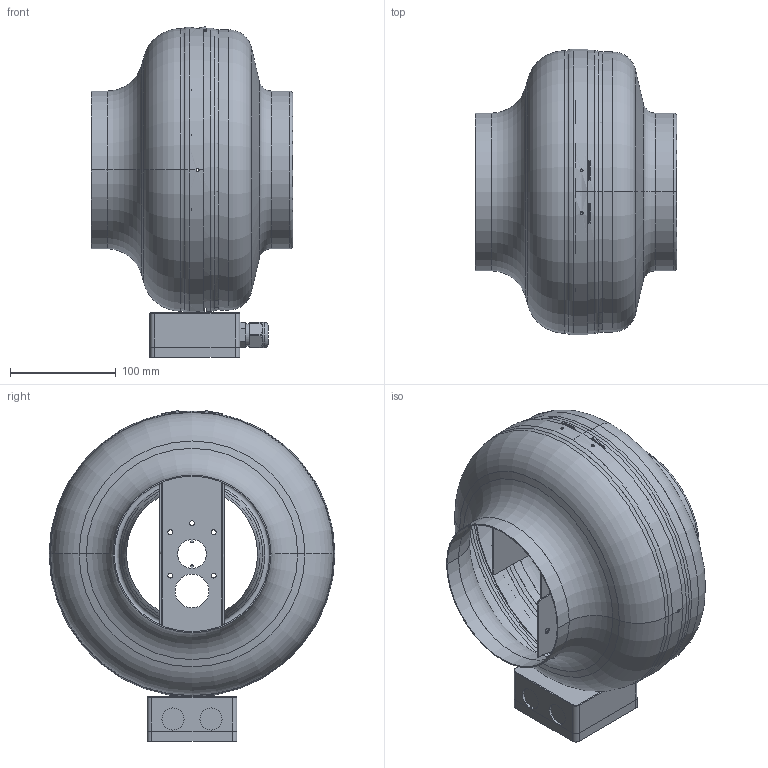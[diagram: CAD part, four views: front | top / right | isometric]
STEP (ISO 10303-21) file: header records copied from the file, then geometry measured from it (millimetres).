
FILE_DESCRIPTION (( 'STEP AP203' ), '1' );
FILE_NAME ('154610_00_RS150ECK01_step.step', '2022-10-10T10:02:51', ( '' ), ( '' ), 'SwSTEP 2.0', 'SolidWorks 2021', '' );
FILE_SCHEMA (( 'CONFIG_CONTROL_DESIGN' ));
Length unit declared in the file: millimetre
Products named in the file (1): 154610_00_RS150ECK01_step
Bounding box: 190.49 x 270 x 312.29 mm (x, y, z)
Surface area: 433478.4 mm2 (no closed solid volume)
Topology: 0 solids, 8 shells, 206 faces, 692 edges, 490 vertices
Faces by surface type: cylinder 84, plane 59, torus 46, cone 13, bspline 4
Entity records: 9085 total; most frequent: CARTESIAN_POINT 2977, DIRECTION 1287, ORIENTED_EDGE 1128, EDGE_CURVE 692, AXIS2_PLACEMENT_3D 496, VERTEX_POINT 490, VECTOR 295, LINE 295
